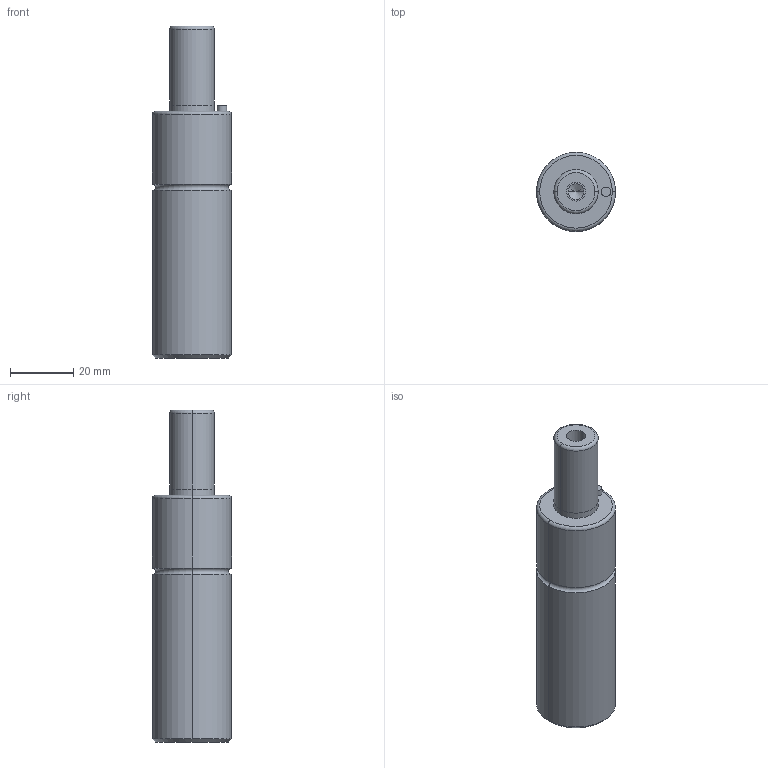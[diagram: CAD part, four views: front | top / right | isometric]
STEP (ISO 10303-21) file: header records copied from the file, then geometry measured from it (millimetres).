
FILE_DESCRIPTION(/* description */ (''),/* implementation_level */ '2;1');
FILE_NAME(/* name */ '3d_gsm25-25_03939_r00.stp',/* time_stamp */ '2011-01-10T14:15:17+09:00',/* author */ ('MISUMI'),/* organization */ (''),/* preprocessor_version */ 'ST-DEVELOPER v11',/* originating_system */ 'UGS - NX 5.0',/* authorisation */ '');
FILE_SCHEMA (('CONFIG_CONTROL_DESIGN'));
Length unit declared in the file: millimetre
Products named in the file (1): 3d_gsm25-25_03939_r00
Bounding box: 25 x 25 x 105 mm (x, y, z)
Volume: 41733.1 mm3; surface area: 8655.1 mm2
Topology: 1 solids, 1 shells, 36 faces, 74 edges, 42 vertices
Faces by surface type: cylinder 18, cone 6, plane 6, torus 6
Entity records: 1014 total; most frequent: DIRECTION 190, CARTESIAN_POINT 149, ORIENTED_EDGE 140, AXIS2_PLACEMENT_3D 83, EDGE_CURVE 70, CIRCLE 46, EDGE_LOOP 42, VERTEX_POINT 42
